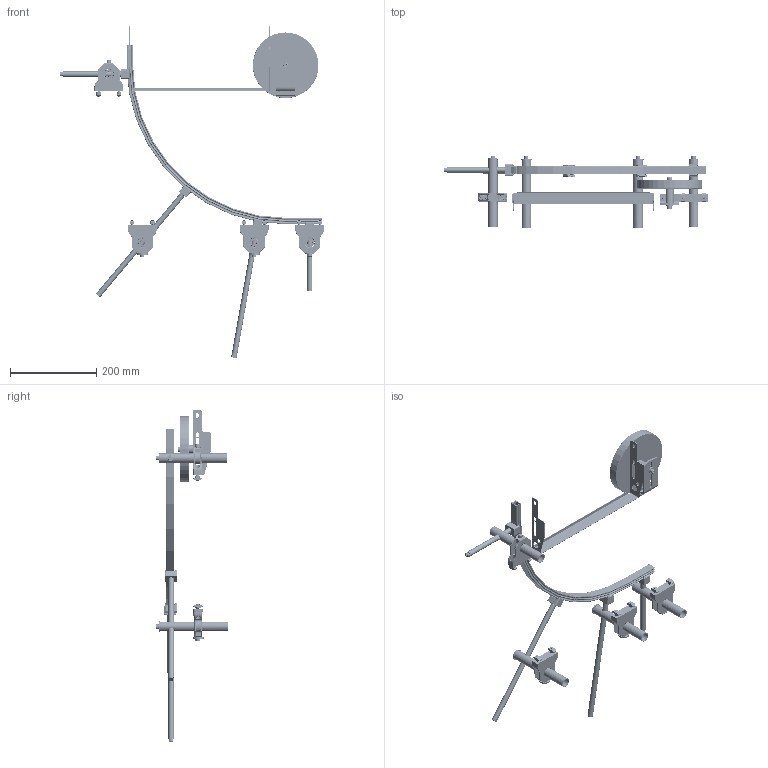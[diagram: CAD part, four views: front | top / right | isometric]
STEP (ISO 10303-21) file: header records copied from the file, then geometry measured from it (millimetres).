
FILE_DESCRIPTION((''),'2;1');
FILE_NAME('206524-12_ASM','2017-02-13T',('jenni.wallner'),(''),'PRO/ENGINEER BY PARAMETRIC TECHNOLOGY CORPORATION, 2012420','PRO/ENGINEER BY PARAMETRIC TECHNOLOGY CORPORATION, 2012420','');
FILE_SCHEMA(('CONFIG_CONTROL_DESIGN'));
Length unit declared in the file: inch
Products named in the file (33): 990601M; 206397_206397; 9206XXM_920614M; 206381_206381; 807-920; 206383_X26128; 206380; 9206XXM_9206150M; 911-709_91090A107; 206685; 206382_HEX; 807-2859_91760A321; 206386; 206385_0_875OD; X26235_206686-2_ASM; 915-218; 911-710_911-710; 234013M; 9706XXM_970620M; 207139_207139-12B_ASM; 234007M; 207138-WW_12; 9206XXM_920616M; 207139_207139-12A_ASM; 200830M; 207125_207125-12; 234006; 234003M; X26235_206686-1_ASM; 234005M; 605279P; ASM0001_ASM; 206524-12_ASM
Assembly tree (93 placements, depth 4):
  206524-12_ASM
    ASM0001_ASM
      X26235_206686-2_ASM
        990601M
        206397_206397
        9206XXM_920614M  x2
        206381_206381
        807-920  x2
        206383_X26128
        206380
        9206XXM_9206150M
        911-709_91090A107  x2
        206685  x2
        206382_HEX
        807-2859_91760A321  x2
        206386
        206385_0_875OD
      9206XXM_920614M  x2
      915-218
      207139_207139-12B_ASM
        911-710_911-710  x2
        807-920  x2
        206382_HEX
        206685  x2
        234013M
        990601M
        206385_0_875OD
        9206XXM_920614M  x2
        807-2859_91760A321  x2
        206397_206397
        206381_206381
        206383_X26128
        206380
        9706XXM_970620M
      234007M
      207138-WW_12
      9206XXM_920616M
      207139_207139-12A_ASM
        911-710_911-710  x2
        807-920  x2
        206385_0_875OD
        9206XXM_920614M  x2
        206685  x2
        234013M
        206397_206397
        990601M
        206381_206381
        807-2859_91760A321  x2
        206383_X26128
        206380
        206382_HEX
        9706XXM_970620M
      200830M
      207125_207125-12
      234006
      234003M
      X26235_206686-1_ASM
        911-709_91090A107  x2
        990601M
        206385_0_875OD
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Bounding box: 612.41 x 166.66 x 769.83 mm (x, y, z)
Volume: 879130.4 mm3; surface area: 472101.5 mm2
Topology: 88 solids, 88 shells, 4553 faces, 11514 edges, 6984 vertices
Faces by surface type: cylinder 1871, plane 1014, bspline 642, cone 622, torus 284, sphere 104, extrusion 16
Entity records: 70422 total; most frequent: CARTESIAN_POINT 41000, ORIENTED_EDGE 6078, DIRECTION 5885, EDGE_CURVE 3039, AXIS2_PLACEMENT_3D 2332, VERTEX_POINT 1861, EDGE_LOOP 1322, FACE_OUTER_BOUND 1238
